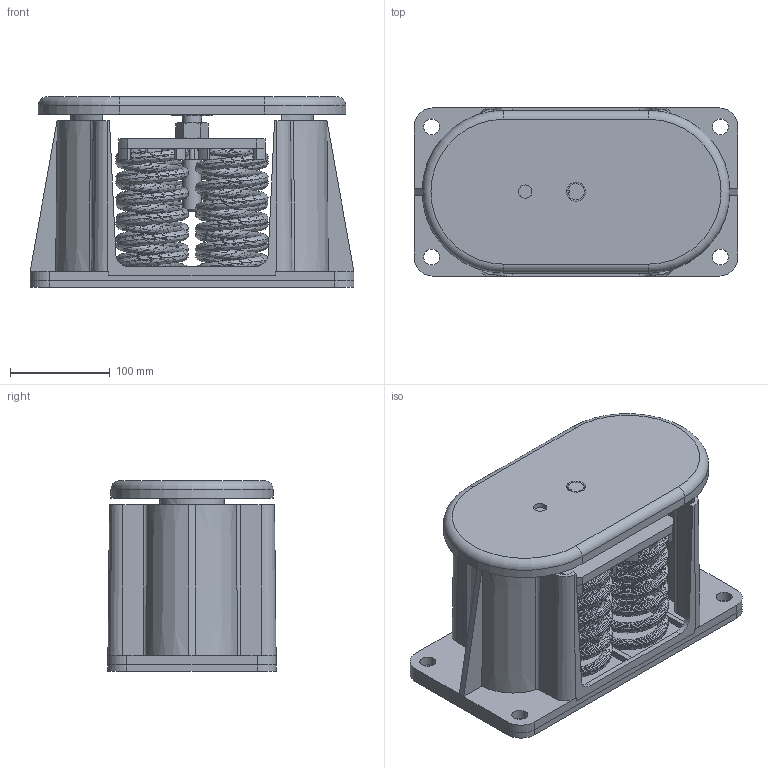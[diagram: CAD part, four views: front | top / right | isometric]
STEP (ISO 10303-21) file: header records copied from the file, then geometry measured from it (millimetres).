
FILE_DESCRIPTION(/* description */ (''),/* implementation_level */ '2;1');
FILE_NAME(/* name */ 'C:\001_Work\Designs\C MOUNTS\CI-E, E2\CI-E-C2-7480.stp',/* time_stamp */ '2015-12-08T10:47:06-05:00',/* author */ ('rramoutar'),/* organization */ ('Mason Industries Inc.'),/* preprocessor_version */ 'ST-DEVELOPER v15.6',/* originating_system */ 'Autodesk Inventor 2015',/* authorisation */ '');
FILE_SCHEMA (('CONFIG_CONTROL_DESIGN'));
Products named in the file (1): CI-E-C2-7480
Bounding box: 323.85 x 168.28 x 190.5 mm (x, y, z)
Volume: 2204497.1 mm3; surface area: 803124.4 mm2
Topology: 14 solids, 18 shells, 470 faces, 1234 edges, 807 vertices
Faces by surface type: plane 239, cylinder 100, bspline 94, cone 33, torus 4
Full cylindrical faces by diameter (mm): 13.386 x1, 15.875 x8, 19.05 x2, 20.637 x2, 41.275 x1
Entity records: 53386 total; most frequent: CARTESIAN_POINT 41899, ORIENTED_EDGE 2422, DIRECTION 1966, EDGE_CURVE 1211, VERTEX_POINT 801, AXIS2_PLACEMENT_3D 658, LINE 650, VECTOR 650
